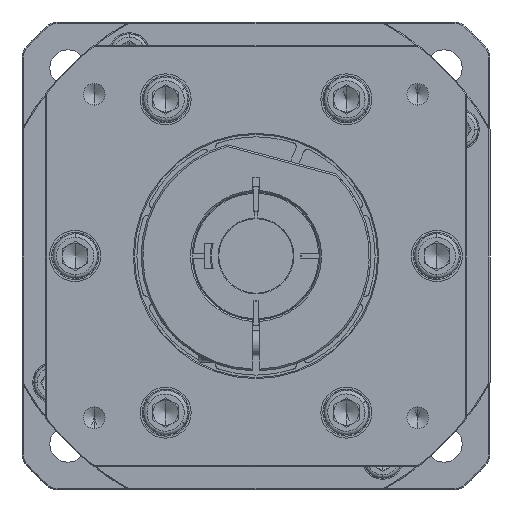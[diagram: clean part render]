
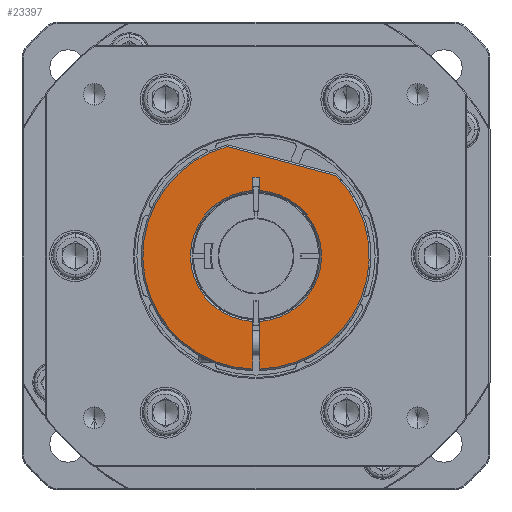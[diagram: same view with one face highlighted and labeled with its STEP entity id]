
A CAD part, left-side view. The second image highlights one B-rep face of the part: STEP entity #23397.
In plain terms, the highlighted planar face has unit normal (-1, 0, 0).
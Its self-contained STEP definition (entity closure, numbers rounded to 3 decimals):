
#325 = CARTESIAN_POINT ( 'NONE',  ( 376.5, 1.5, -74.255 ) ) ;
#458 = VERTEX_POINT ( 'NONE', #10014 ) ;
#581 = VECTOR ( 'NONE', #37163, 1000. ) ;
#749 = LINE ( 'NONE', #13846, #18908 ) ;
#1079 = LINE ( 'NONE', #33995, #39987 ) ;
#2057 = VERTEX_POINT ( 'NONE', #20212 ) ;
#2238 = ORIENTED_EDGE ( 'NONE', *, *, #19402, .T. ) ;
#2507 = ORIENTED_EDGE ( 'NONE', *, *, #34832, .T. ) ;
#2557 = EDGE_CURVE ( 'NONE', #26688, #38534, #749, .T. ) ;
#2675 = AXIS2_PLACEMENT_3D ( 'NONE', #36684, #30100, #33932 ) ;
#3197 = VECTOR ( 'NONE', #35980, 1000. ) ;
#4811 = EDGE_CURVE ( 'NONE', #31970, #34186, #40021, .T. ) ;
#5154 = PLANE ( 'NONE',  #21284 ) ;
#5155 = CARTESIAN_POINT ( 'NONE',  ( 376.5, -1.5, 30.763 ) ) ;
#5352 = ORIENTED_EDGE ( 'NONE', *, *, #2557, .T. ) ;
#5692 = EDGE_CURVE ( 'NONE', #2057, #35976, #13573, .T. ) ;
#6302 = CIRCLE ( 'NONE', #7678, 53.2 ) ;
#7294 = DIRECTION ( 'NONE',  ( 0., -1., 0. ) ) ;
#7404 = CARTESIAN_POINT ( 'NONE',  ( 376.5, 1.5, 37. ) ) ;
#7489 = CARTESIAN_POINT ( 'NONE',  ( 376.5, -30.8, 0. ) ) ;
#7678 = AXIS2_PLACEMENT_3D ( 'NONE', #7923, #31091, #11283 ) ;
#7923 = CARTESIAN_POINT ( 'NONE',  ( 376.5, 0., 0. ) ) ;
#8144 = CARTESIAN_POINT ( 'NONE',  ( 376.5, -1.5, -30.763 ) ) ;
#8151 = AXIS2_PLACEMENT_3D ( 'NONE', #19645, #9546, #42882 ) ;
#8319 = ORIENTED_EDGE ( 'NONE', *, *, #4811, .T. ) ;
#8476 = CARTESIAN_POINT ( 'NONE',  ( 376.5, 0., 0. ) ) ;
#8530 = ORIENTED_EDGE ( 'NONE', *, *, #26764, .T. ) ;
#9396 = VECTOR ( 'NONE', #17499, 1000. ) ;
#9424 = CARTESIAN_POINT ( 'NONE',  ( 376.5, -37.437, 37.799 ) ) ;
#9546 = DIRECTION ( 'NONE',  ( -1., 0., 0. ) ) ;
#10014 = CARTESIAN_POINT ( 'NONE',  ( 376.5, 1.5, 30.763 ) ) ;
#11283 = DIRECTION ( 'NONE',  ( 0., 0., -1. ) ) ;
#12782 = VERTEX_POINT ( 'NONE', #7489 ) ;
#13560 = ORIENTED_EDGE ( 'NONE', *, *, #5692, .T. ) ;
#13573 = LINE ( 'NONE', #42079, #34368 ) ;
#13707 = EDGE_CURVE ( 'NONE', #38534, #12782, #14186, .T. ) ;
#13846 = CARTESIAN_POINT ( 'NONE',  ( 376.5, -1.5, -74.255 ) ) ;
#14186 = CIRCLE ( 'NONE', #2675, 30.8 ) ;
#15641 = CARTESIAN_POINT ( 'NONE',  ( 376.5, -37.437, 37.799 ) ) ;
#16100 = LINE ( 'NONE', #7404, #9396 ) ;
#17499 = DIRECTION ( 'NONE',  ( 0., -1., 0. ) ) ;
#17751 = CARTESIAN_POINT ( 'NONE',  ( 376.5, 1.5, 37. ) ) ;
#17758 = ORIENTED_EDGE ( 'NONE', *, *, #24310, .T. ) ;
#18241 = CARTESIAN_POINT ( 'NONE',  ( 376.5, -1.5, -53.179 ) ) ;
#18596 = DIRECTION ( 'NONE',  ( 0., 0., 1. ) ) ;
#18908 = VECTOR ( 'NONE', #37623, 1000. ) ;
#19402 = EDGE_CURVE ( 'NONE', #30199, #31970, #41813, .T. ) ;
#19645 = CARTESIAN_POINT ( 'NONE',  ( 376.5, 0., 0. ) ) ;
#19859 = CARTESIAN_POINT ( 'NONE',  ( 376.5, 0., 0. ) ) ;
#20212 = CARTESIAN_POINT ( 'NONE',  ( 376.5, 1.5, -53.179 ) ) ;
#20302 = FACE_OUTER_BOUND ( 'NONE', #30521, .T. ) ;
#20897 = VERTEX_POINT ( 'NONE', #17751 ) ;
#21284 = AXIS2_PLACEMENT_3D ( 'NONE', #8476, #41826, #18596 ) ;
#23397 = ADVANCED_FACE ( 'NONE', ( #20302 ), #5154, .T. ) ;
#23644 = EDGE_CURVE ( 'NONE', #458, #20897, #41571, .T. ) ;
#23774 = VERTEX_POINT ( 'NONE', #8144 ) ;
#24133 = CARTESIAN_POINT ( 'NONE',  ( 376.5, 0., 0. ) ) ;
#24310 = EDGE_CURVE ( 'NONE', #23774, #30199, #1079, .T. ) ;
#26688 = VERTEX_POINT ( 'NONE', #38977 ) ;
#26764 = EDGE_CURVE ( 'NONE', #12782, #23774, #41415, .T. ) ;
#30100 = DIRECTION ( 'NONE',  ( 1., 0., 0. ) ) ;
#30199 = VERTEX_POINT ( 'NONE', #18241 ) ;
#30247 = DIRECTION ( 'NONE',  ( 1., 0., 0. ) ) ;
#30521 = EDGE_LOOP ( 'NONE', ( #34011, #2507, #5352, #40583, #8530, #17758, #2238, #8319, #31076, #13560, #36267 ) ) ;
#31076 = ORIENTED_EDGE ( 'NONE', *, *, #35481, .T. ) ;
#31091 = DIRECTION ( 'NONE',  ( -1., 0., 0. ) ) ;
#31623 = EDGE_CURVE ( 'NONE', #35976, #458, #32302, .T. ) ;
#31970 = VERTEX_POINT ( 'NONE', #15641 ) ;
#32302 = CIRCLE ( 'NONE', #40877, 30.8 ) ;
#32432 = CARTESIAN_POINT ( 'NONE',  ( 376.5, 1.5, -30.763 ) ) ;
#33932 = DIRECTION ( 'NONE',  ( 0., -1., 0. ) ) ;
#33995 = CARTESIAN_POINT ( 'NONE',  ( 376.5, -1.5, -74.255 ) ) ;
#34011 = ORIENTED_EDGE ( 'NONE', *, *, #23644, .T. ) ;
#34186 = VERTEX_POINT ( 'NONE', #39368 ) ;
#34368 = VECTOR ( 'NONE', #35862, 1000. ) ;
#34832 = EDGE_CURVE ( 'NONE', #20897, #26688, #16100, .T. ) ;
#35481 = EDGE_CURVE ( 'NONE', #34186, #2057, #6302, .T. ) ;
#35862 = DIRECTION ( 'NONE',  ( 0., 0., 1. ) ) ;
#35976 = VERTEX_POINT ( 'NONE', #32432 ) ;
#35980 = DIRECTION ( 'NONE',  ( 0., 0.966, 0.259 ) ) ;
#36005 = AXIS2_PLACEMENT_3D ( 'NONE', #24133, #30247, #36968 ) ;
#36267 = ORIENTED_EDGE ( 'NONE', *, *, #31623, .T. ) ;
#36684 = CARTESIAN_POINT ( 'NONE',  ( 376.5, 0., 0. ) ) ;
#36968 = DIRECTION ( 'NONE',  ( 0., -1., 0. ) ) ;
#37031 = DIRECTION ( 'NONE',  ( 0., 0., -1. ) ) ;
#37163 = DIRECTION ( 'NONE',  ( 0., 0., 1. ) ) ;
#37623 = DIRECTION ( 'NONE',  ( 0., 0., -1. ) ) ;
#38534 = VERTEX_POINT ( 'NONE', #5155 ) ;
#38977 = CARTESIAN_POINT ( 'NONE',  ( 376.5, -1.5, 37. ) ) ;
#39368 = CARTESIAN_POINT ( 'NONE',  ( 376.5, 13.522, 51.453 ) ) ;
#39987 = VECTOR ( 'NONE', #37031, 1000. ) ;
#40021 = LINE ( 'NONE', #9424, #3197 ) ;
#40344 = DIRECTION ( 'NONE',  ( 1., 0., 0. ) ) ;
#40583 = ORIENTED_EDGE ( 'NONE', *, *, #13707, .T. ) ;
#40877 = AXIS2_PLACEMENT_3D ( 'NONE', #19859, #40344, #7294 ) ;
#41415 = CIRCLE ( 'NONE', #36005, 30.8 ) ;
#41571 = LINE ( 'NONE', #325, #581 ) ;
#41813 = CIRCLE ( 'NONE', #8151, 53.2 ) ;
#41826 = DIRECTION ( 'NONE',  ( -1., 0., 0. ) ) ;
#42079 = CARTESIAN_POINT ( 'NONE',  ( 376.5, 1.5, -74.255 ) ) ;
#42882 = DIRECTION ( 'NONE',  ( 0., 0., -1. ) ) ;
